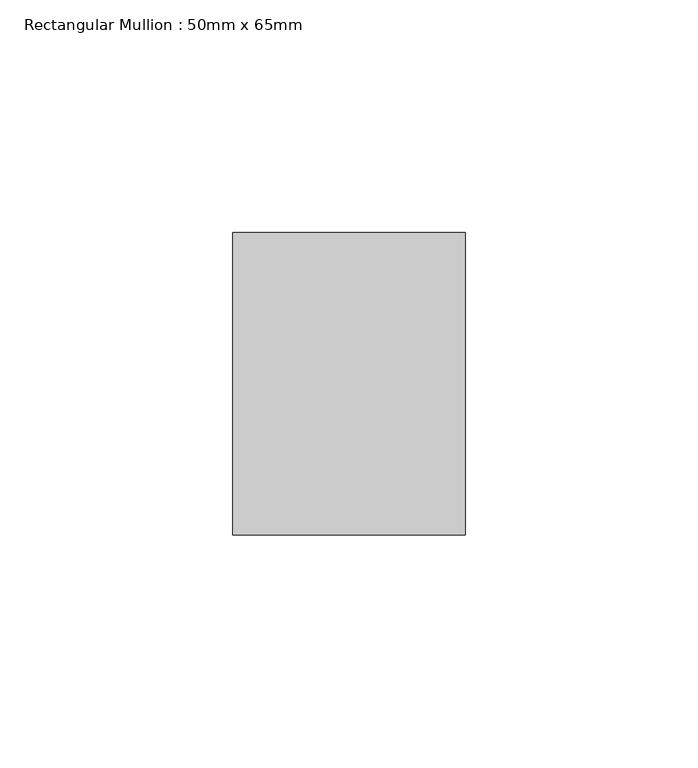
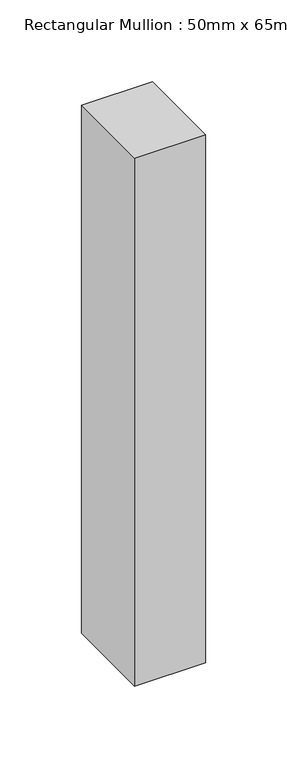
"""IFC4 building model written with IfcOpenShell, lengths in millimetres: member geometry, Rectangular Mullion : 50mm x 65mm."""

from ifc_helpers import new_model, si_unit, frame, origin, place, context, project, spatial, polyline, outline, extrude, source, transform, mapped, element, save


def rectangular_mullion_50mm_x_65mm_8b285529(model_context):
    return source(origin(), model_context, "Body", "SweptSolid", [
        extrude(outline(polyline([(0.0, 32.5), (0.0, -32.5), (-50.0, -32.5), (-50.0, 32.5), (0.0, 32.5)])), frame((0.0, 0.0, -394.3395716), z_axis=(0.0, 0.0, 1.0), x_axis=(1.0, 0.0, 0.0)), (0.0, 0.0, 1.0), 394.3395716),
    ])


if __name__ == "__main__":
    model = new_model("IFC4")
    model_context = context("Model", 3, world=origin())
    ifc_project = project(units=[si_unit("LENGTHUNIT", "METRE", prefix="MILLI")], contexts=[model_context])
    site = spatial("IfcSite", under=ifc_project)
    building = spatial("IfcBuilding", under=site)
    placement = place(None, origin())
    rectangular_mullion_50mm_x_65mm_shape = rectangular_mullion_50mm_x_65mm_8b285529(model_context)
    element("IfcMember", 1, ObjectType="Rectangular Mullion : 50mm x 65mm", at=placement, inside=building, context=model_context, shape_type="MappedRepresentation", body=[
        mapped(rectangular_mullion_50mm_x_65mm_shape, transform((0.0, 0.0, 0.0), x_axis=(1.0, 0.0, 0.0), y_axis=(0.0, 1.0, 0.0), z_axis=(0.0, 0.0, 1.0))),
    ])
    save(model, "model.ifc")
